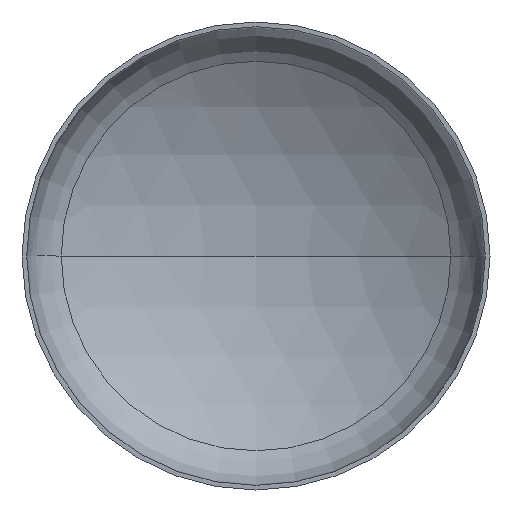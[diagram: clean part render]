
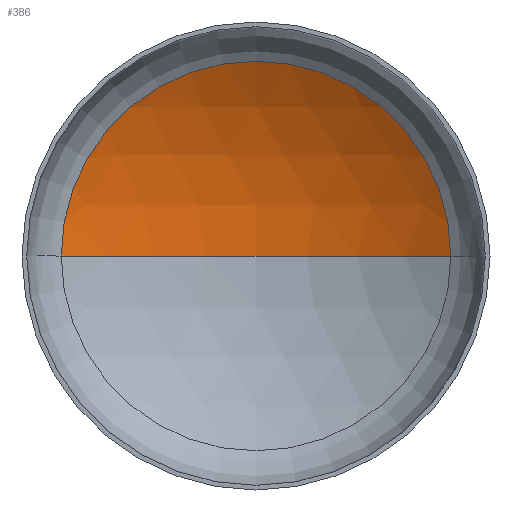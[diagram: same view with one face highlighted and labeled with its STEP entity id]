
A CAD part, front view. The second image highlights one B-rep face of the part: STEP entity #386.
In plain terms, the highlighted spherical face has radius 3200 mm.
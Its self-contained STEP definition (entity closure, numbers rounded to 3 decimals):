
#5 = EDGE_LOOP ( 'NONE', ( #85, #37, #133 ) ) ;
#7 = VERTEX_POINT ( 'NONE', #246 ) ;
#8 = AXIS2_PLACEMENT_3D ( 'NONE', #321, #232, #86 ) ;
#13 = DIRECTION ( 'NONE',  ( 0., -1., 0. ) ) ;
#17 = CARTESIAN_POINT ( 'NONE',  ( 0., -2087.533, 0. ) ) ;
#21 = VERTEX_POINT ( 'NONE', #275 ) ;
#37 = ORIENTED_EDGE ( 'NONE', *, *, #130, .T. ) ;
#54 = AXIS2_PLACEMENT_3D ( 'NONE', #17, #362, #322 ) ;
#56 = AXIS2_PLACEMENT_3D ( 'NONE', #368, #13, #75 ) ;
#75 = DIRECTION ( 'NONE',  ( 1., 0., 0. ) ) ;
#85 = ORIENTED_EDGE ( 'NONE', *, *, #353, .F. ) ;
#86 = DIRECTION ( 'NONE',  ( 1., 0., 0. ) ) ;
#127 = EDGE_CURVE ( 'NONE', #190, #21, #237, .T. ) ;
#130 = EDGE_CURVE ( 'NONE', #7, #190, #165, .T. ) ;
#133 = ORIENTED_EDGE ( 'NONE', *, *, #127, .T. ) ;
#149 = DIRECTION ( 'NONE',  ( 0., 0., -1. ) ) ;
#165 = CIRCLE ( 'NONE', #54, 3200. ) ;
#190 = VERTEX_POINT ( 'NONE', #213 ) ;
#213 = CARTESIAN_POINT ( 'NONE',  ( 1664.99, 645.196, 0. ) ) ;
#232 = DIRECTION ( 'NONE',  ( 0., 0., 1. ) ) ;
#237 = CIRCLE ( 'NONE', #56, 1664.99 ) ;
#240 = AXIS2_PLACEMENT_3D ( 'NONE', #329, #149, #273 ) ;
#246 = CARTESIAN_POINT ( 'NONE',  ( 0., 1112.467, 0. ) ) ;
#247 = SPHERICAL_SURFACE ( 'NONE', #240, 3200. ) ;
#256 = FACE_OUTER_BOUND ( 'NONE', #5, .T. ) ;
#262 = CIRCLE ( 'NONE', #8, 3200. ) ;
#273 = DIRECTION ( 'NONE',  ( -1., 0., 0. ) ) ;
#275 = CARTESIAN_POINT ( 'NONE',  ( -1664.99, 645.196, 0. ) ) ;
#321 = CARTESIAN_POINT ( 'NONE',  ( 0., -2087.533, 0. ) ) ;
#322 = DIRECTION ( 'NONE',  ( -1., 0., 0. ) ) ;
#329 = CARTESIAN_POINT ( 'NONE',  ( 0., -2087.533, 0. ) ) ;
#353 = EDGE_CURVE ( 'NONE', #7, #21, #262, .T. ) ;
#362 = DIRECTION ( 'NONE',  ( 0., 0., -1. ) ) ;
#368 = CARTESIAN_POINT ( 'NONE',  ( 0., 645.196, 0. ) ) ;
#386 = ADVANCED_FACE ( 'NONE', ( #256 ), #247, .F. ) ;
